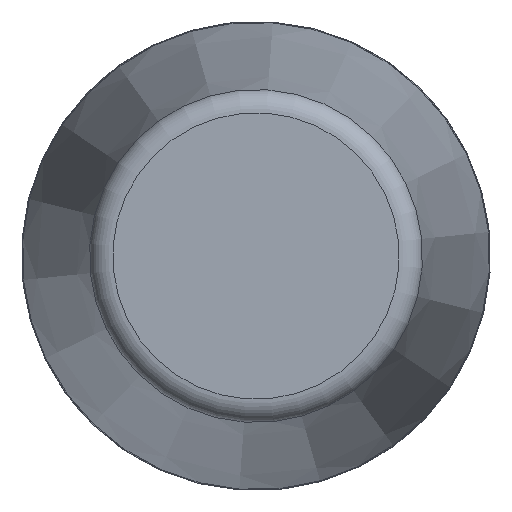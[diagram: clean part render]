
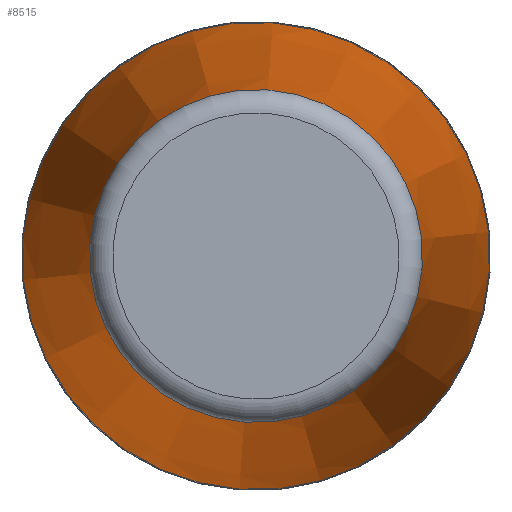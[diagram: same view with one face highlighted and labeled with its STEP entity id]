
A CAD part, front view. The second image highlights one B-rep face of the part: STEP entity #8515.
In plain terms, the highlighted conical face has half-angle 6.34 degrees and reference radius 16.963 mm.
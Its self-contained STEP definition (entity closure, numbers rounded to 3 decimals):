
#65=CONICAL_SURFACE('',#8847,16.963,0.111);
#86=CIRCLE('',#8845,14.198);
#88=CIRCLE('',#8848,19.927);
#89=CIRCLE('',#8849,19.927);
#147=FACE_BOUND('',#1835,.T.);
#1312=FACE_OUTER_BOUND('',#1834,.T.);
#1834=EDGE_LOOP('',(#7833,#7834));
#1835=EDGE_LOOP('',(#7835));
#4134=VERTEX_POINT('',#15975);
#4136=VERTEX_POINT('',#15980);
#4137=VERTEX_POINT('',#15981);
#5368=EDGE_CURVE('',#4134,#4134,#86,.T.);
#5370=EDGE_CURVE('',#4136,#4137,#88,.T.);
#5371=EDGE_CURVE('',#4137,#4136,#89,.T.);
#7833=ORIENTED_EDGE('',*,*,#5370,.T.);
#7834=ORIENTED_EDGE('',*,*,#5371,.T.);
#7835=ORIENTED_EDGE('',*,*,#5368,.F.);
#8515=ADVANCED_FACE('',(#1312,#147),#65,.T.);
#8845=AXIS2_PLACEMENT_3D('',#15976,#10105,#10106);
#8847=AXIS2_PLACEMENT_3D('',#15979,#10109,#10110);
#8848=AXIS2_PLACEMENT_3D('',#15982,#10111,#10112);
#8849=AXIS2_PLACEMENT_3D('',#15983,#10113,#10114);
#10105=DIRECTION('center_axis',(1.,0.,0.));
#10106=DIRECTION('ref_axis',(0.,0.,1.));
#10109=DIRECTION('center_axis',(-1.,0.,0.));
#10110=DIRECTION('ref_axis',(0.,0.,-1.));
#10111=DIRECTION('center_axis',(1.,0.,0.));
#10112=DIRECTION('ref_axis',(0.,0.,-1.));
#10113=DIRECTION('center_axis',(1.,0.,0.));
#10114=DIRECTION('ref_axis',(0.,0.,-1.));
#15975=CARTESIAN_POINT('',(66.221,0.,-14.198));
#15976=CARTESIAN_POINT('Origin',(66.221,0.,
0.));
#15979=CARTESIAN_POINT('Origin',(41.33,0.,0.));
#15980=CARTESIAN_POINT('',(14.661,0.,-19.927));
#15981=CARTESIAN_POINT('',(14.661,0.,19.927));
#15982=CARTESIAN_POINT('Origin',(14.661,0.,0.));
#15983=CARTESIAN_POINT('Origin',(14.661,0.,0.));
